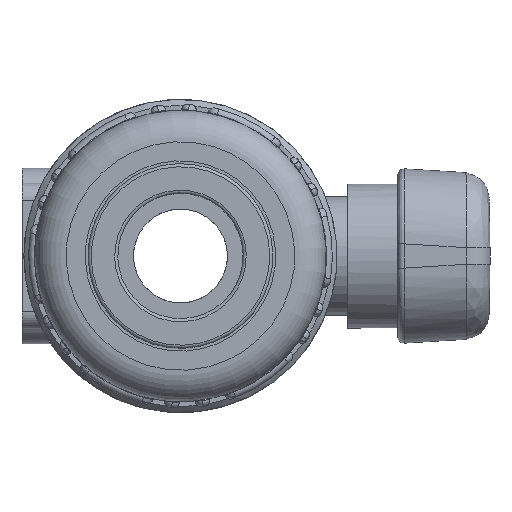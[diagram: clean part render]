
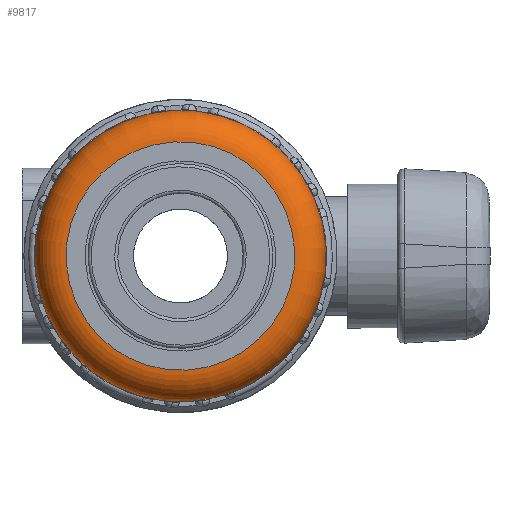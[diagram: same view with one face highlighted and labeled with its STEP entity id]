
A CAD part, front view. The second image highlights one B-rep face of the part: STEP entity #9817.
In plain terms, the highlighted toroidal (fillet/blend) face has major radius 18.25 mm and minor radius 5 mm.
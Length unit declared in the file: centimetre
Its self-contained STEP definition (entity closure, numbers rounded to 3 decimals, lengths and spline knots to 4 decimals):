
#59=TOROIDAL_SURFACE('',#10497,1.825,0.5);
#1927=FACE_BOUND('',#2771,.T.);
#2192=FACE_OUTER_BOUND('',#2770,.T.);
#2770=EDGE_LOOP('',(#6961));
#2771=EDGE_LOOP('',(#6962));
#3385=CIRCLE('',#10495,1.825);
#3387=CIRCLE('',#10498,2.325);
#4009=VERTEX_POINT('',#36878);
#4011=VERTEX_POINT('',#36883);
#5118=EDGE_CURVE('',#4009,#4009,#3385,.T.);
#5120=EDGE_CURVE('',#4011,#4011,#3387,.T.);
#6961=ORIENTED_EDGE('',*,*,#5120,.F.);
#6962=ORIENTED_EDGE('',*,*,#5118,.T.);
#9817=ADVANCED_FACE('',(#2192,#1927),#59,.T.);
#10495=AXIS2_PLACEMENT_3D('',#36879,#11912,#11913);
#10497=AXIS2_PLACEMENT_3D('',#36882,#11916,#11917);
#10498=AXIS2_PLACEMENT_3D('',#36884,#11918,#11919);
#11912=DIRECTION('center_axis',(0.,1.,0.));
#11913=DIRECTION('ref_axis',(-0.448,0.,-0.894));
#11916=DIRECTION('center_axis',(0.,1.,0.));
#11917=DIRECTION('ref_axis',(0.894,0.,-0.448));
#11918=DIRECTION('center_axis',(0.,1.,0.));
#11919=DIRECTION('ref_axis',(-0.448,0.,-0.894));
#36878=CARTESIAN_POINT('',(0.8176,-3.16,1.6316));
#36879=CARTESIAN_POINT('Origin',(0.,-3.16,0.));
#36882=CARTESIAN_POINT('Origin',(0.,-2.66,0.));
#36883=CARTESIAN_POINT('',(1.0415,-2.66,2.0787));
#36884=CARTESIAN_POINT('Origin',(0.,-2.66,0.));
